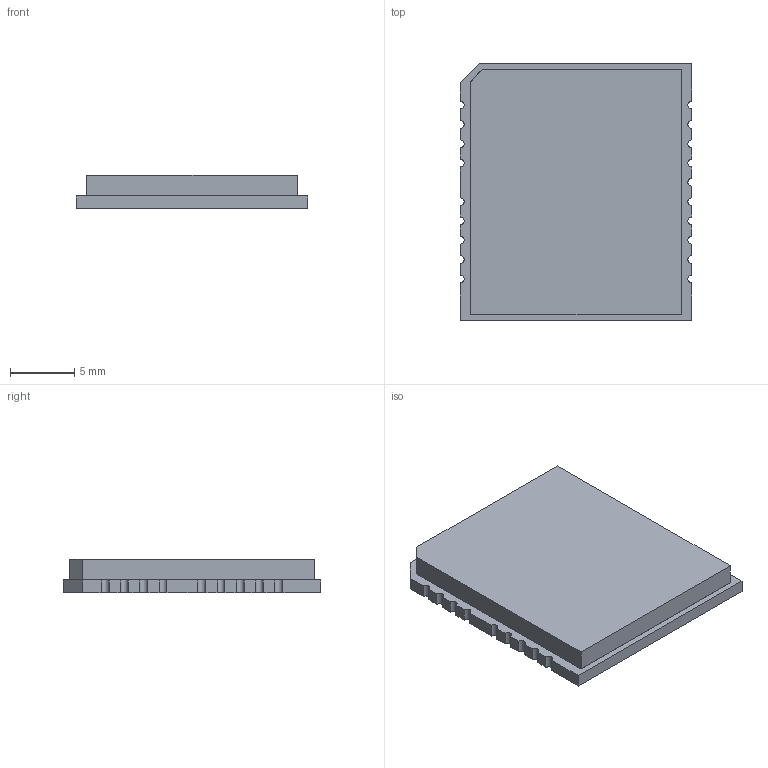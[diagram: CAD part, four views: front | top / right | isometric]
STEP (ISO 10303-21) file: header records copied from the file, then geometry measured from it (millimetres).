
FILE_DESCRIPTION (( 'STEP AP203' ), '1' );
FILE_NAME ('HI06-Module-3D.STEP', '2025-09-17T07:53:17', ( '' ), ( '' ), 'SwSTEP 2.0', 'SolidWorks 2016', '' );
FILE_SCHEMA (( 'CONFIG_CONTROL_DESIGN' ));
Length unit declared in the file: millimetre
Products named in the file (1): HI06-Module-3D
Bounding box: 18 x 20 x 2.62 mm (x, y, z)
Volume: 441.1 mm3; surface area: 1626.2 mm2
Topology: 2 solids, 2 shells, 150 faces, 432 edges, 288 vertices
Faces by surface type: plane 121, cylinder 29
Entity records: 4949 total; most frequent: CARTESIAN_POINT 871, ORIENTED_EDGE 864, DIRECTION 792, EDGE_CURVE 432, VECTOR 374, LINE 374, VERTEX_POINT 288, AXIS2_PLACEMENT_3D 209
